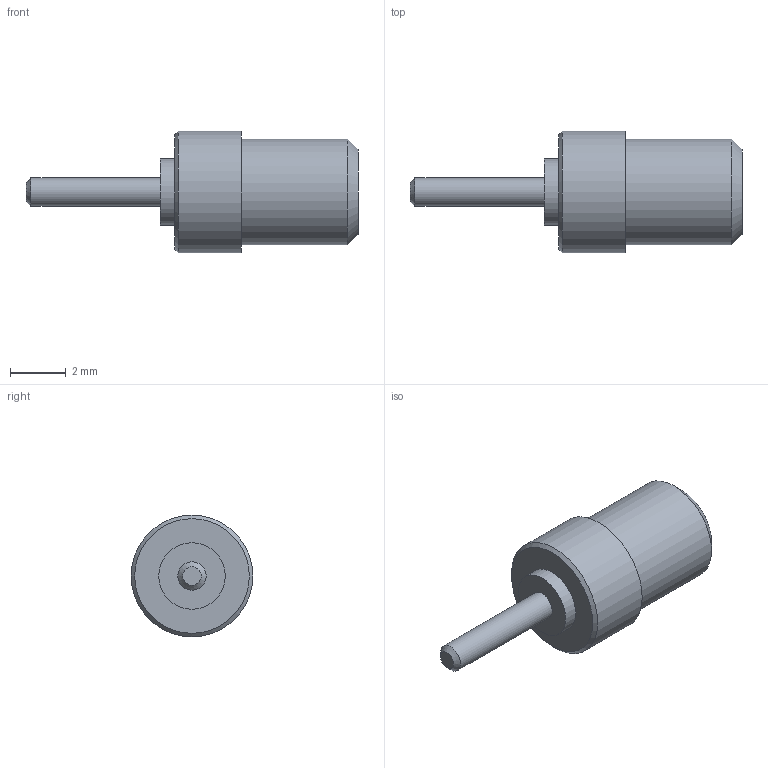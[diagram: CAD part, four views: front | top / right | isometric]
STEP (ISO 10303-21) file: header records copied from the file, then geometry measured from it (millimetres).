
FILE_DESCRIPTION(/* description */ (''),/* implementation_level */ '2;1');
FILE_NAME(/* name */ '\\Snap1\dwgs\Customer 3D Models\571\571-4030-03 Customer model.stp',/* time_stamp */ '2017-01-05T09:51:46+00:00',/* author */ ('paulk'),/* organization */ (''),/* preprocessor_version */ 'ST-DEVELOPER v15.2',/* originating_system */ 'Autodesk Inventor 2014',/* authorisation */ '');
FILE_SCHEMA (('CONFIG_CONTROL_DESIGN'));
Length unit declared in the file: millimetre
Products named in the file (1): 571-4030-03 Customer model
Bounding box: 11.91 x 4.37 x 4.37 mm (x, y, z)
Volume: 88.2 mm3; surface area: 127.5 mm2
Topology: 1 solids, 1 shells, 12 faces, 18 edges, 11 vertices
Faces by surface type: plane 5, cylinder 4, cone 3
Full cylindrical faces by diameter (mm): 1.016 x1, 2.388 x1, 3.785 x1, 4.369 x1
Entity records: 281 total; most frequent: DIRECTION 48, CARTESIAN_POINT 35, AXIS2_PLACEMENT_3D 24, EDGE_LOOP 22, ORIENTED_EDGE 22, FACE_BOUND 13, STYLED_ITEM 13, ADVANCED_FACE 12
